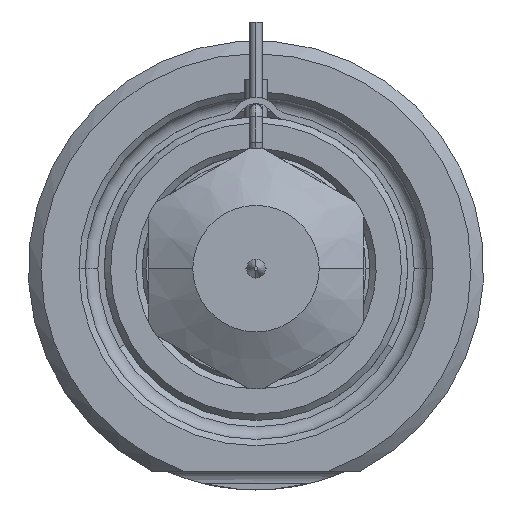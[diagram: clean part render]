
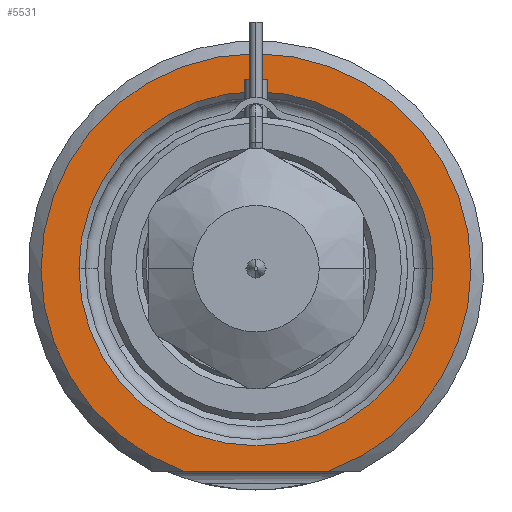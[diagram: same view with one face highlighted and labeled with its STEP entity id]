
A CAD part, front view. The second image highlights one B-rep face of the part: STEP entity #5531.
In plain terms, the highlighted planar face has unit normal (0, -1, 0).
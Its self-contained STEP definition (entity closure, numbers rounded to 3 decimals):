
#1969=DIRECTION('',(1.,0.,0.));
#1970=VECTOR('',#1969,11.489);
#1971=CARTESIAN_POINT('',(-5.745,0.,-16.));
#1972=LINE('',#1971,#1970);
#1973=CARTESIAN_POINT('',(0.,0.,0.));
#1974=DIRECTION('',(0.,1.,0.));
#1975=DIRECTION('',(-1.,0.,0.));
#1976=AXIS2_PLACEMENT_3D('',#1973,#1974,#1975);
#1978=CARTESIAN_POINT('',(0.,0.,0.));
#1979=DIRECTION('',(0.,1.,0.));
#1980=DIRECTION('',(1.,0.,0.));
#1981=AXIS2_PLACEMENT_3D('',#1978,#1979,#1980);
#2085=CARTESIAN_POINT('',(0.,0.,0.));
#2086=DIRECTION('',(0.,-1.,0.));
#2087=DIRECTION('',(0.338,0.,-0.941));
#2088=AXIS2_PLACEMENT_3D('',#2085,#2086,#2087);
#3024=CARTESIAN_POINT('',(-14.,0.,0.));
#3025=CARTESIAN_POINT('',(14.,0.,0.));
#3026=VERTEX_POINT('',#3024);
#3027=VERTEX_POINT('',#3025);
#3064=CARTESIAN_POINT('',(-5.745,0.,-16.));
#3065=CARTESIAN_POINT('',(5.745,0.,-16.));
#3066=VERTEX_POINT('',#3064);
#3067=VERTEX_POINT('',#3065);
#5515=CARTESIAN_POINT('',(0.,0.,0.));
#5516=DIRECTION('',(0.,-1.,0.));
#5517=DIRECTION('',(1.,0.,0.));
#5518=AXIS2_PLACEMENT_3D('',#5515,#5516,#5517);
#5519=PLANE('',#5518);
#5521=ORIENTED_EDGE('',*,*,#5520,.F.);
#5523=ORIENTED_EDGE('',*,*,#5522,.F.);
#5524=EDGE_LOOP('',(#5521,#5523));
#5525=FACE_OUTER_BOUND('',#5524,.F.);
#5527=ORIENTED_EDGE('',*,*,#5526,.F.);
#5528=ORIENTED_EDGE('',*,*,#5505,.F.);
#5529=EDGE_LOOP('',(#5527,#5528));
#5530=FACE_BOUND('',#5529,.F.);
#5531=ADVANCED_FACE('',(#5525,#5530),#5519,.T.);
#1977=CIRCLE('',#1976,14.);
#1982=CIRCLE('',#1981,14.);
#2089=CIRCLE('',#2088,17.);
#5505=EDGE_CURVE('',#3027,#3026,#1982,.T.);
#5520=EDGE_CURVE('',#3066,#3067,#1972,.T.);
#5522=EDGE_CURVE('',#3067,#3066,#2089,.T.);
#5526=EDGE_CURVE('',#3026,#3027,#1977,.T.);
